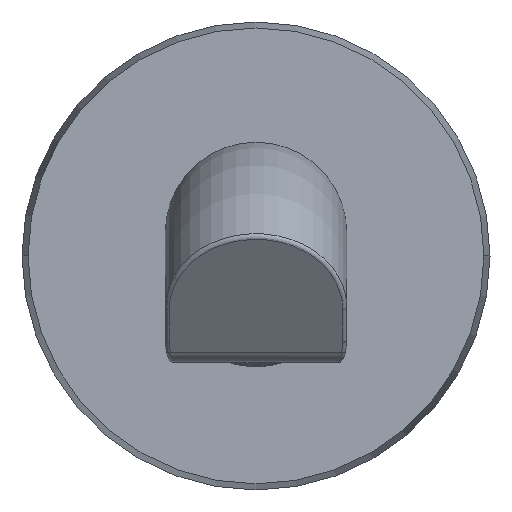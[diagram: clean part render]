
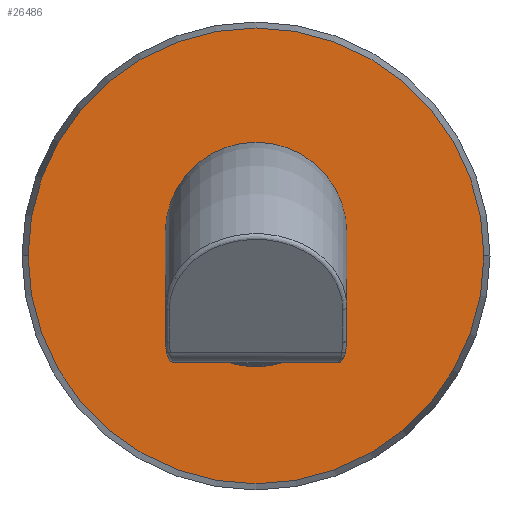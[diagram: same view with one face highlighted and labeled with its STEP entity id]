
A CAD part, top view. The second image highlights one B-rep face of the part: STEP entity #26486.
In plain terms, the highlighted planar face has unit normal (0, 0, 1).
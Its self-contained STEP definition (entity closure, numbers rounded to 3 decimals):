
#15=CARTESIAN_POINT('',(100.,0.,48.2));
#16=DIRECTION('',(0.,0.,-1.));
#17=DIRECTION('',(0.,-1.,0.));
#18=AXIS2_PLACEMENT_3D('',#15,#16,#17);
#20=CARTESIAN_POINT('',(100.,0.,48.2));
#21=DIRECTION('',(0.,0.,-1.));
#22=DIRECTION('',(0.,1.,0.));
#23=AXIS2_PLACEMENT_3D('',#20,#21,#22);
#29=CARTESIAN_POINT('',(100.,0.,48.2));
#30=DIRECTION('',(0.,0.,1.));
#31=DIRECTION('',(-1.,0.,0.));
#32=AXIS2_PLACEMENT_3D('',#29,#30,#31);
#38=CARTESIAN_POINT('',(100.,0.,48.2));
#39=DIRECTION('',(0.,0.,-1.));
#40=DIRECTION('',(-1.,0.,0.));
#41=AXIS2_PLACEMENT_3D('',#38,#39,#40);
#20798=CARTESIAN_POINT('',(71.75,0.,48.2));
#20800=VERTEX_POINT('',#20798);
#20802=CARTESIAN_POINT('',(128.25,0.,48.2));
#20804=VERTEX_POINT('',#20802);
#23583=CARTESIAN_POINT('',(100.,-10.,48.2));
#23584=CARTESIAN_POINT('',(100.,10.,48.2));
#23585=VERTEX_POINT('',#23583);
#23586=VERTEX_POINT('',#23584);
#26469=CARTESIAN_POINT('',(100.,0.,48.2));
#26470=DIRECTION('',(0.,0.,-1.));
#26471=DIRECTION('',(-1.,0.,0.));
#26472=AXIS2_PLACEMENT_3D('',#26469,#26470,#26471);
#26473=PLANE('',#26472);
#26475=ORIENTED_EDGE('',*,*,#26474,.F.);
#26477=ORIENTED_EDGE('',*,*,#26476,.T.);
#26478=EDGE_LOOP('',(#26475,#26477));
#26479=FACE_OUTER_BOUND('',#26478,.F.);
#26481=ORIENTED_EDGE('',*,*,#26480,.F.);
#26483=ORIENTED_EDGE('',*,*,#26482,.F.);
#26484=EDGE_LOOP('',(#26481,#26483));
#26485=FACE_BOUND('',#26484,.F.);
#19=CIRCLE('',#18,10.);
#24=CIRCLE('',#23,10.);
#33=CIRCLE('',#32,28.25);
#42=CIRCLE('',#41,28.25);
#26474=EDGE_CURVE('',#20800,#20804,#33,.T.);
#26476=EDGE_CURVE('',#20800,#20804,#42,.T.);
#26480=EDGE_CURVE('',#23585,#23586,#19,.T.);
#26482=EDGE_CURVE('',#23586,#23585,#24,.T.);
#26486=ADVANCED_FACE('',(#26479,#26485),#26473,.F.);
